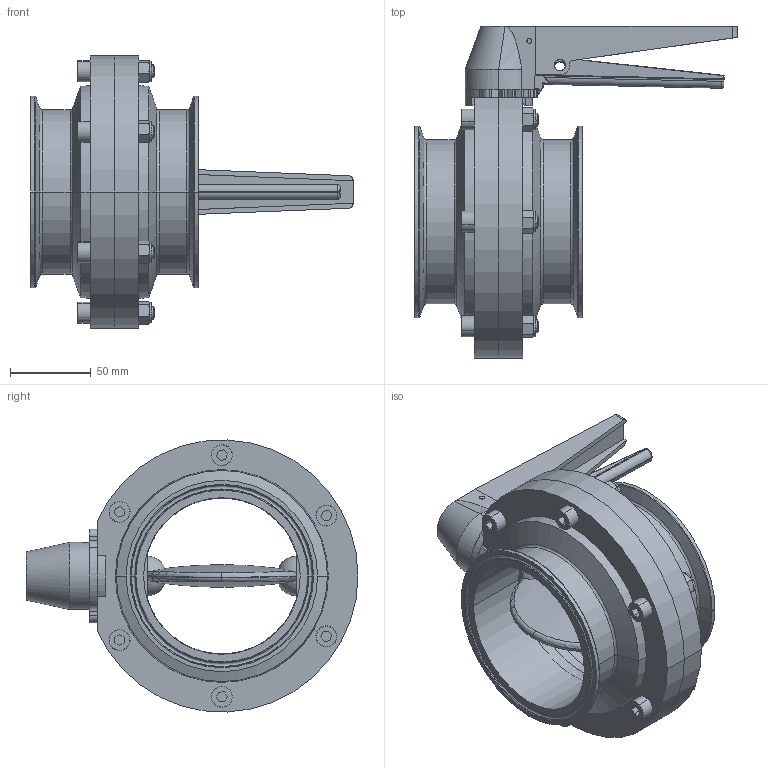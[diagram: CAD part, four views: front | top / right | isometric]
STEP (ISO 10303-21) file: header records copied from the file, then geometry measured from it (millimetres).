
FILE_DESCRIPTION (( 'STEP AP214' ), '1' );
FILE_NAME ('4in Sanitary BFV, Clamp Ends, with SS Trigger handle（加密）.STEP', '2025-03-24T03:03:30', ( '' ), ( '' ), 'SwSTEP 2.0', 'SolidWorks 2023', '' );
FILE_SCHEMA (( 'AUTOMOTIVE_DESIGN' ));
Length unit declared in the file: millimetre
Products named in the file (13): 2201G0025 蝶阀不锈钢把手-固定销; 0.5~4in 蝶阀衬套 2606M0001 2606M0002 2606M0003 2606M0004_4-6in; 31014G0014 31014R0006 4in 3A 蝶片; GB／T70．1-2000内六角圆柱头螺钉M8×40; 2601E0087 2601S0088 4in 3A 蝶阀密封圈-AVK; 3-4in 蝶阀把手齿轮片 2201G0024; 不锈钢把手_3-4in 开启状态; CME 不锈钢把手1-4 in_大头加密; 2201G0016 蝶阀不锈钢把手-弹簧; 220110003  B5107蝶阀AFV把手杆-03D  5107-HT-5040 CF8; GB／T889．1-20001型非金属嵌件六角锁紧螺母M8; 31012R0128 31012R0190 4in B5107 快装蝶阀本体_VNE 加密; 4in Sanitary BFV, Clamp Ends, with SS Trigger handle（加密）
Assembly tree (24 placements, depth 3):
  4in Sanitary BFV, Clamp Ends, with SS Trigger handle（加密）
    31012R0128 31012R0190 4in B5107 快装蝶阀本体_VNE 加密  x2
    31014G0014 31014R0006 4in 3A 蝶片
    2601E0087 2601S0088 4in 3A 蝶阀密封圈-AVK
    0.5~4in 蝶阀衬套 2606M0001 2606M0002 2606M0003 2606M0004_4-6in  x2
    不锈钢把手_3-4in 开启状态
      3-4in 蝶阀把手齿轮片 2201G0024
      CME 不锈钢把手1-4 in_大头加密
      220110003  B5107蝶阀AFV把手杆-03D  5107-HT-5040 CF8
      2201G0016 蝶阀不锈钢把手-弹簧
      2201G0025 蝶阀不锈钢把手-固定销
    GB／T70．1-2000内六角圆柱头螺钉M8×40  x6
    GB／T889．1-20001型非金属嵌件六角锁紧螺母M8  x6
Bounding box: 200.12 x 206.2 x 168.97 mm (x, y, z)
Volume: 941388.2 mm3; surface area: 266464 mm2
Topology: 25 solids, 28 shells, 1110 faces, 2690 edges, 1664 vertices
Faces by surface type: plane 420, cylinder 299, cone 134, bspline 120, torus 104, sphere 33
Entity records: 30238 total; most frequent: CARTESIAN_POINT 13073, ORIENTED_EDGE 3624, DIRECTION 3271, EDGE_CURVE 1812, AXIS2_PLACEMENT_3D 1207, VERTEX_POINT 1131, LINE 857, VECTOR 857
